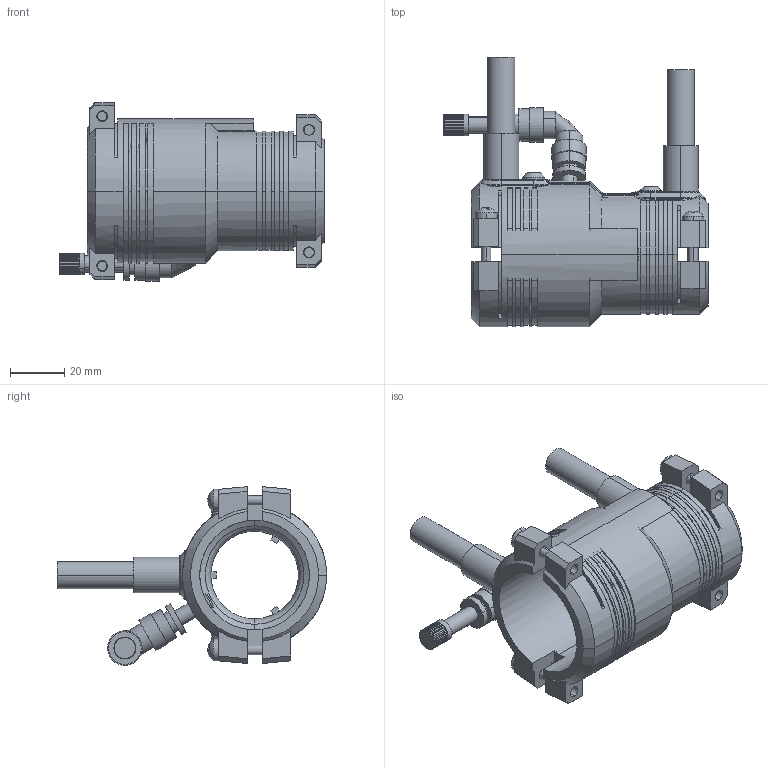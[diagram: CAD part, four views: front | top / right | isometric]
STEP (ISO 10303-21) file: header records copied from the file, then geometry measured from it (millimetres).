
FILE_DESCRIPTION (( 'STEP AP203' ), '1' );
FILE_NAME ('KP_T40-32SC.STEP', '2012-01-18T10:26:11', ( '' ), ( '' ), 'SwSTEP 2.0', 'SolidWorks 2012', '' );
FILE_SCHEMA (( 'CONFIG_CONTROL_DESIGN' ));
Length unit declared in the file: millimetre
Products named in the file (1): KP_T40-32SC
Bounding box: 97 x 99 x 65.68 mm (x, y, z)
Volume: 85614 mm3; surface area: 42558.7 mm2
Topology: 6 solids, 6 shells, 715 faces, 1816 edges, 1154 vertices
Faces by surface type: plane 349, cylinder 225, cone 51, bspline 47, torus 33, sphere 10
Entity records: 23182 total; most frequent: CARTESIAN_POINT 6037, ORIENTED_EDGE 3600, DIRECTION 3571, EDGE_CURVE 1800, AXIS2_PLACEMENT_3D 1362, VERTEX_POINT 1150, VECTOR 847, LINE 847
